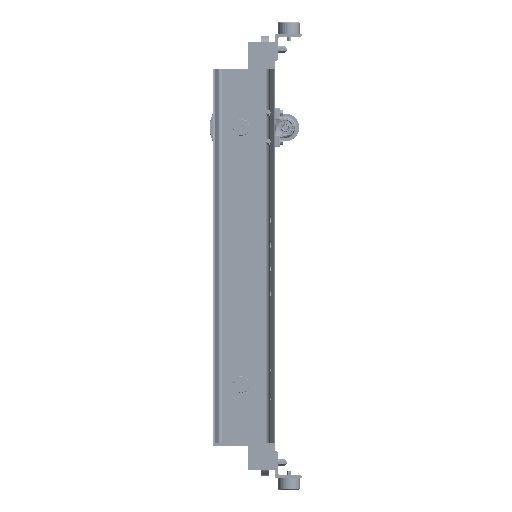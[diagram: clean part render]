
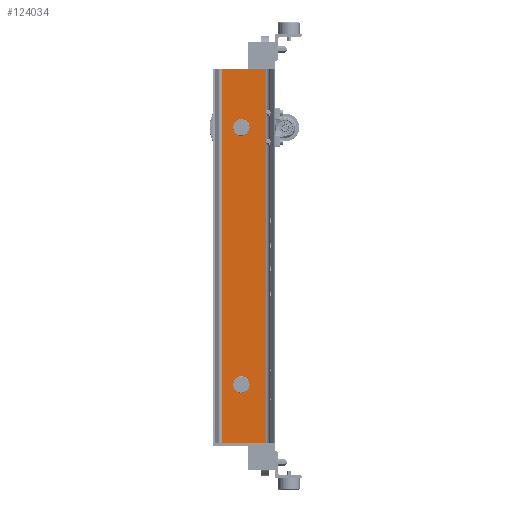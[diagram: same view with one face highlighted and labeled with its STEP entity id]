
A CAD part, left-side view. The second image highlights one B-rep face of the part: STEP entity #124034.
In plain terms, the highlighted planar face has unit normal (-1, 0, 0) as drawn and (1, 0, 0) by its records, which use the part's own axes.
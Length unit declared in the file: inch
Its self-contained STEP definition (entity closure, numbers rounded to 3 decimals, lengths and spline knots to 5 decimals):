
#1127 = CARTESIAN_POINT ( 'NONE',  ( 0.375, 3.37, -16.5 ) ) ;
#3359 = DIRECTION ( 'NONE',  ( 1., 0., 0. ) ) ;
#9491 = DIRECTION ( 'NONE',  ( 0., -1., 0. ) ) ;
#9892 = DIRECTION ( 'NONE',  ( 0., -1., 0. ) ) ;
#11668 = DIRECTION ( 'NONE',  ( 0., 1., 0. ) ) ;
#13885 = DIRECTION ( 'NONE',  ( 0., 1., 0. ) ) ;
#14348 = CARTESIAN_POINT ( 'NONE',  ( 0.375, 5.342, -16.5 ) ) ;
#19855 = DIRECTION ( 'NONE',  ( 0., 1., 0. ) ) ;
#20207 = EDGE_CURVE ( 'NONE', #139044, #29383, #41691, .T. ) ;
#22188 = CARTESIAN_POINT ( 'NONE',  ( 0.375, 3.37, 16.5 ) ) ;
#26285 = CARTESIAN_POINT ( 'NONE',  ( 0.375, 4.356, 16.5 ) ) ;
#29383 = VERTEX_POINT ( 'NONE', #102580 ) ;
#30279 = DIRECTION ( 'NONE',  ( 0., 1., 0. ) ) ;
#30510 = EDGE_CURVE ( 'NONE', #38705, #35431, #39891, .T. ) ;
#32682 = VERTEX_POINT ( 'NONE', #22188 ) ;
#32872 = VERTEX_POINT ( 'NONE', #1127 ) ;
#34112 = CARTESIAN_POINT ( 'NONE',  ( 0.375, 4.356, -16.5 ) ) ;
#34424 = CARTESIAN_POINT ( 'NONE',  ( 0.375, 4.356, -16.5 ) ) ;
#35431 = VERTEX_POINT ( 'NONE', #162755 ) ;
#35994 = ORIENTED_EDGE ( 'NONE', *, *, #167561, .F. ) ;
#36437 = EDGE_CURVE ( 'NONE', #127332, #32682, #77210, .T. ) ;
#38705 = VERTEX_POINT ( 'NONE', #124641 ) ;
#39891 = LINE ( 'NONE', #99066, #128565 ) ;
#40196 = EDGE_CURVE ( 'NONE', #32872, #96565, #112976, .T. ) ;
#41691 = LINE ( 'NONE', #98936, #182036 ) ;
#46579 = ORIENTED_EDGE ( 'NONE', *, *, #130134, .F. ) ;
#47171 = DIRECTION ( 'NONE',  ( 0., 0., -1. ) ) ;
#49445 = ORIENTED_EDGE ( 'NONE', *, *, #30510, .F. ) ;
#57675 = ORIENTED_EDGE ( 'NONE', *, *, #20207, .T. ) ;
#62673 = FACE_OUTER_BOUND ( 'NONE', #106063, .T. ) ;
#69157 = LINE ( 'NONE', #85570, #153701 ) ;
#77210 = CIRCLE ( 'NONE', #120539, 0.986 ) ;
#85570 = CARTESIAN_POINT ( 'NONE',  ( 0.375, 6.76976, -24. ) ) ;
#87400 = DIRECTION ( 'NONE',  ( 0., 0., -1. ) ) ;
#88175 = AXIS2_PLACEMENT_3D ( 'NONE', #34112, #163201, #30279 ) ;
#88621 = DIRECTION ( 'NONE',  ( 1., 0., 0. ) ) ;
#93415 = EDGE_CURVE ( 'NONE', #32682, #127332, #95896, .T. ) ;
#95896 = CIRCLE ( 'NONE', #105139, 0.986 ) ;
#96565 = VERTEX_POINT ( 'NONE', #14348 ) ;
#98936 = CARTESIAN_POINT ( 'NONE',  ( 0.375, 1.23024, 24. ) ) ;
#99066 = CARTESIAN_POINT ( 'NONE',  ( 0.375, 6.76976, 24. ) ) ;
#99872 = CARTESIAN_POINT ( 'NONE',  ( 0.375, 5.342, 16.5 ) ) ;
#101138 = ORIENTED_EDGE ( 'NONE', *, *, #133116, .T. ) ;
#102580 = CARTESIAN_POINT ( 'NONE',  ( 0.375, 1.23024, -24. ) ) ;
#105139 = AXIS2_PLACEMENT_3D ( 'NONE', #132274, #88621, #13885 ) ;
#106063 = EDGE_LOOP ( 'NONE', ( #46579, #49445, #101138, #57675 ) ) ;
#106842 = CIRCLE ( 'NONE', #88175, 0.986 ) ;
#109744 = EDGE_LOOP ( 'NONE', ( #128487, #131251 ) ) ;
#112976 = CIRCLE ( 'NONE', #181121, 0.986 ) ;
#120539 = AXIS2_PLACEMENT_3D ( 'NONE', #26285, #189256, #11668 ) ;
#120895 = FACE_BOUND ( 'NONE', #133476, .T. ) ;
#123762 = CARTESIAN_POINT ( 'NONE',  ( 0.375, 6.76976, 24. ) ) ;
#124034 = ADVANCED_FACE ( 'NONE', ( #120895, #165505, #62673 ), #149992, .T. ) ;
#124641 = CARTESIAN_POINT ( 'NONE',  ( 0.375, 6.76976, 24. ) ) ;
#127332 = VERTEX_POINT ( 'NONE', #99872 ) ;
#128487 = ORIENTED_EDGE ( 'NONE', *, *, #36437, .F. ) ;
#128565 = VECTOR ( 'NONE', #87400, 39.37008 ) ;
#130134 = EDGE_CURVE ( 'NONE', #35431, #29383, #69157, .T. ) ;
#131251 = ORIENTED_EDGE ( 'NONE', *, *, #93415, .F. ) ;
#132274 = CARTESIAN_POINT ( 'NONE',  ( 0.375, 4.356, 16.5 ) ) ;
#133116 = EDGE_CURVE ( 'NONE', #38705, #139044, #171603, .T. ) ;
#133476 = EDGE_LOOP ( 'NONE', ( #35994, #142393 ) ) ;
#136373 = DIRECTION ( 'NONE',  ( 1., 0., 0. ) ) ;
#139044 = VERTEX_POINT ( 'NONE', #161634 ) ;
#142393 = ORIENTED_EDGE ( 'NONE', *, *, #40196, .F. ) ;
#142444 = CARTESIAN_POINT ( 'NONE',  ( 0.375, 6.76976, 24. ) ) ;
#149992 = PLANE ( 'NONE',  #189101 ) ;
#153701 = VECTOR ( 'NONE', #9892, 39.37008 ) ;
#160733 = VECTOR ( 'NONE', #9491, 39.37008 ) ;
#161634 = CARTESIAN_POINT ( 'NONE',  ( 0.375, 1.23024, 24. ) ) ;
#162755 = CARTESIAN_POINT ( 'NONE',  ( 0.375, 6.76976, -24. ) ) ;
#163201 = DIRECTION ( 'NONE',  ( 1., 0., 0. ) ) ;
#165505 = FACE_BOUND ( 'NONE', #109744, .T. ) ;
#167561 = EDGE_CURVE ( 'NONE', #96565, #32872, #106842, .T. ) ;
#171603 = LINE ( 'NONE', #142444, #160733 ) ;
#181121 = AXIS2_PLACEMENT_3D ( 'NONE', #34424, #3359, #19855 ) ;
#182036 = VECTOR ( 'NONE', #189132, 39.37008 ) ;
#189101 = AXIS2_PLACEMENT_3D ( 'NONE', #123762, #136373, #47171 ) ;
#189132 = DIRECTION ( 'NONE',  ( 0., 0., -1. ) ) ;
#189256 = DIRECTION ( 'NONE',  ( 1., 0., 0. ) ) ;
